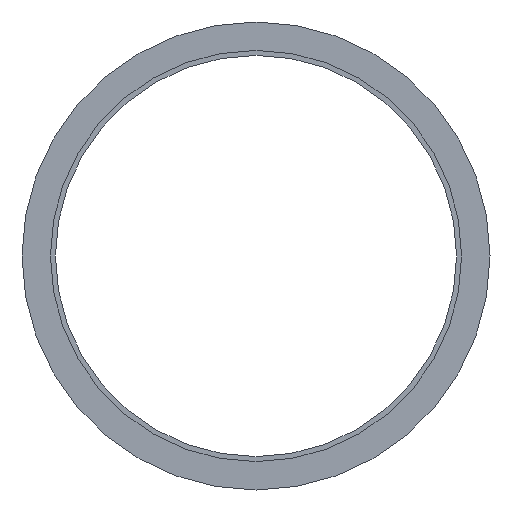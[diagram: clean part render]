
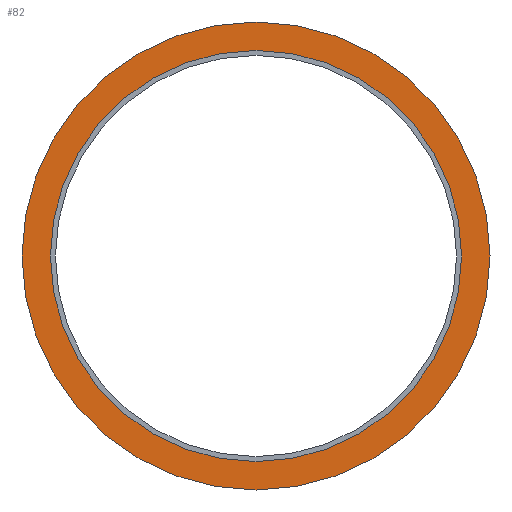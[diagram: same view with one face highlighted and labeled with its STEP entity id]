
A CAD part, left-side view. The second image highlights one B-rep face of the part: STEP entity #82.
In plain terms, the highlighted planar face has unit normal (-1, 0, 0).
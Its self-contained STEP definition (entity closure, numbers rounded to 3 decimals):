
#6 = VERTEX_POINT ( 'NONE', #141 ) ;
#10 = DIRECTION ( 'NONE',  ( 1., 0., 0. ) ) ;
#11 = ORIENTED_EDGE ( 'NONE', *, *, #252, .T. ) ;
#14 = EDGE_LOOP ( 'NONE', ( #113, #255 ) ) ;
#15 = AXIS2_PLACEMENT_3D ( 'NONE', #57, #10, #344 ) ;
#21 = CARTESIAN_POINT ( 'NONE',  ( -3.979, -0.225, 18.45 ) ) ;
#36 = CARTESIAN_POINT ( 'NONE',  ( -3.979, -0.225, 0. ) ) ;
#57 = CARTESIAN_POINT ( 'NONE',  ( -3.979, -0.225, 0. ) ) ;
#67 = CIRCLE ( 'NONE', #334, 21. ) ;
#82 = ADVANCED_FACE ( 'NONE', ( #345, #223 ), #192, .T. ) ;
#103 = DIRECTION ( 'NONE',  ( 1., 0., 0. ) ) ;
#106 = EDGE_LOOP ( 'NONE', ( #11, #295 ) ) ;
#113 = ORIENTED_EDGE ( 'NONE', *, *, #195, .F. ) ;
#141 = CARTESIAN_POINT ( 'NONE',  ( -3.979, -0.225, 21. ) ) ;
#156 = VERTEX_POINT ( 'NONE', #21 ) ;
#165 = DIRECTION ( 'NONE',  ( 0., 0., -1. ) ) ;
#172 = CARTESIAN_POINT ( 'NONE',  ( -3.979, -0.225, 0. ) ) ;
#187 = AXIS2_PLACEMENT_3D ( 'NONE', #198, #226, #230 ) ;
#192 = PLANE ( 'NONE',  #187 ) ;
#193 = CIRCLE ( 'NONE', #250, 18.45 ) ;
#195 = EDGE_CURVE ( 'NONE', #247, #6, #372, .T. ) ;
#198 = CARTESIAN_POINT ( 'NONE',  ( -3.979, -0.225, 0. ) ) ;
#223 = FACE_OUTER_BOUND ( 'NONE', #14, .T. ) ;
#226 = DIRECTION ( 'NONE',  ( -1., 0., 0. ) ) ;
#228 = AXIS2_PLACEMENT_3D ( 'NONE', #391, #103, #284 ) ;
#230 = DIRECTION ( 'NONE',  ( 0., 0., 1. ) ) ;
#239 = DIRECTION ( 'NONE',  ( 1., 0., 0. ) ) ;
#247 = VERTEX_POINT ( 'NONE', #263 ) ;
#250 = AXIS2_PLACEMENT_3D ( 'NONE', #36, #239, #165 ) ;
#252 = EDGE_CURVE ( 'NONE', #371, #156, #290, .T. ) ;
#255 = ORIENTED_EDGE ( 'NONE', *, *, #304, .F. ) ;
#259 = DIRECTION ( 'NONE',  ( 1., 0., 0. ) ) ;
#263 = CARTESIAN_POINT ( 'NONE',  ( -3.979, -0.225, -21. ) ) ;
#284 = DIRECTION ( 'NONE',  ( 0., 0., -1. ) ) ;
#290 = CIRCLE ( 'NONE', #228, 18.45 ) ;
#295 = ORIENTED_EDGE ( 'NONE', *, *, #318, .T. ) ;
#304 = EDGE_CURVE ( 'NONE', #6, #247, #67, .T. ) ;
#318 = EDGE_CURVE ( 'NONE', #156, #371, #193, .T. ) ;
#325 = DIRECTION ( 'NONE',  ( 0., 0., -1. ) ) ;
#334 = AXIS2_PLACEMENT_3D ( 'NONE', #172, #259, #325 ) ;
#344 = DIRECTION ( 'NONE',  ( 0., 0., -1. ) ) ;
#345 = FACE_BOUND ( 'NONE', #106, .T. ) ;
#348 = CARTESIAN_POINT ( 'NONE',  ( -3.979, -0.225, -18.45 ) ) ;
#371 = VERTEX_POINT ( 'NONE', #348 ) ;
#372 = CIRCLE ( 'NONE', #15, 21. ) ;
#391 = CARTESIAN_POINT ( 'NONE',  ( -3.979, -0.225, 0. ) ) ;
